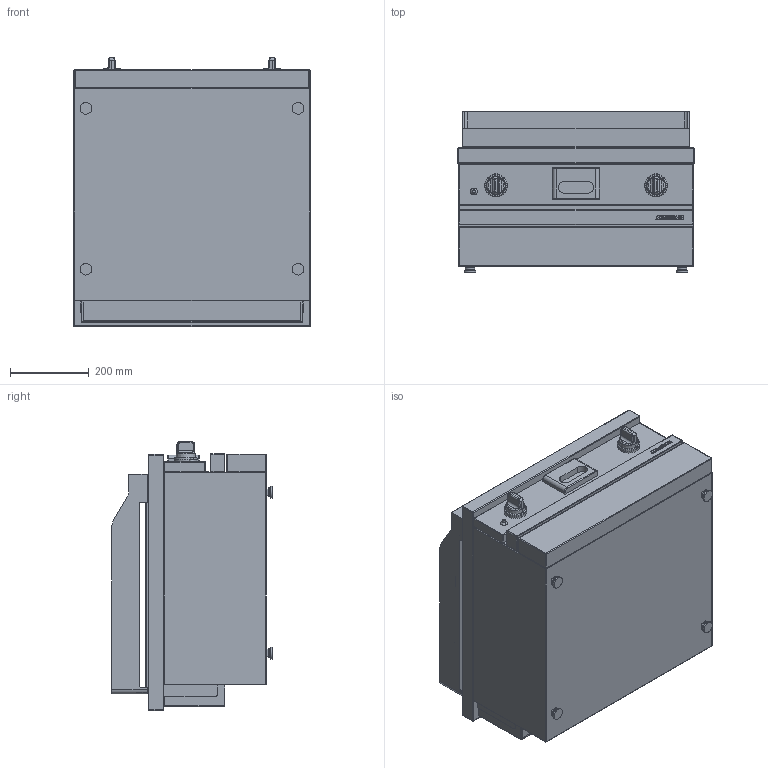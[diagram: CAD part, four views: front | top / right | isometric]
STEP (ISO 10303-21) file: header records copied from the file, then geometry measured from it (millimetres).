
FILE_DESCRIPTION((''),'2;1');
FILE_NAME('CSG610SLK_EXPORT_STEP_ASM','2017-11-22T',('r.avril'),(''),'PRO/ENGINEER BY PARAMETRIC TECHNOLOGY CORPORATION, 2014200','PRO/ENGINEER BY PARAMETRIC TECHNOLOGY CORPORATION, 2014200','');
FILE_SCHEMA(('AP203_CONFIGURATION_CONTROLLED_3D_DESIGN_OF_MECHANICAL_PARTS_AND_ASSEMBLIES_MIM_LF { 1 0 10303 403 2 1 2 }'));
Length unit declared in the file: millimetre
Products named in the file (10): SNACKS_AMB_600_EXPORT_STEP; MANETTE_AMB_EXPORT_STEP; TABLE_610_GRILLADE; TABLE_610_GRILLADE_ASM; 50288800; 50293100; 65070003_ASM; ALLUMEUR_EXPORT_STEP; TIROIR_GRILLADE_EXPORT_STEP; CSG610SLK_EXPORT_STEP_ASM
Assembly tree (10 placements, depth 3):
  CSG610SLK_EXPORT_STEP_ASM
    SNACKS_AMB_600_EXPORT_STEP
    MANETTE_AMB_EXPORT_STEP  x2
    TABLE_610_GRILLADE_ASM
      TABLE_610_GRILLADE
    65070003_ASM
      50288800
      50293100
    ALLUMEUR_EXPORT_STEP
    TIROIR_GRILLADE_EXPORT_STEP
Bounding box: 600 x 407.43 x 682.5 mm (x, y, z)
Volume: 53354631.4 mm3; surface area: 4065859 mm2
Topology: 13 solids, 39 shells, 537 faces, 1920 edges, 1675 vertices
Faces by surface type: plane 220, cylinder 183, cone 50, sphere 40, bspline 24, torus 20
Entity records: 25881 total; most frequent: CARTESIAN_POINT 6228, DIRECTION 3122, ORIENTED_EDGE 2639, EDGE_CURVE 1560, VERTEX_POINT 1132, AXIS2_PLACEMENT_3D 1080, VECTOR 932, LINE 932
